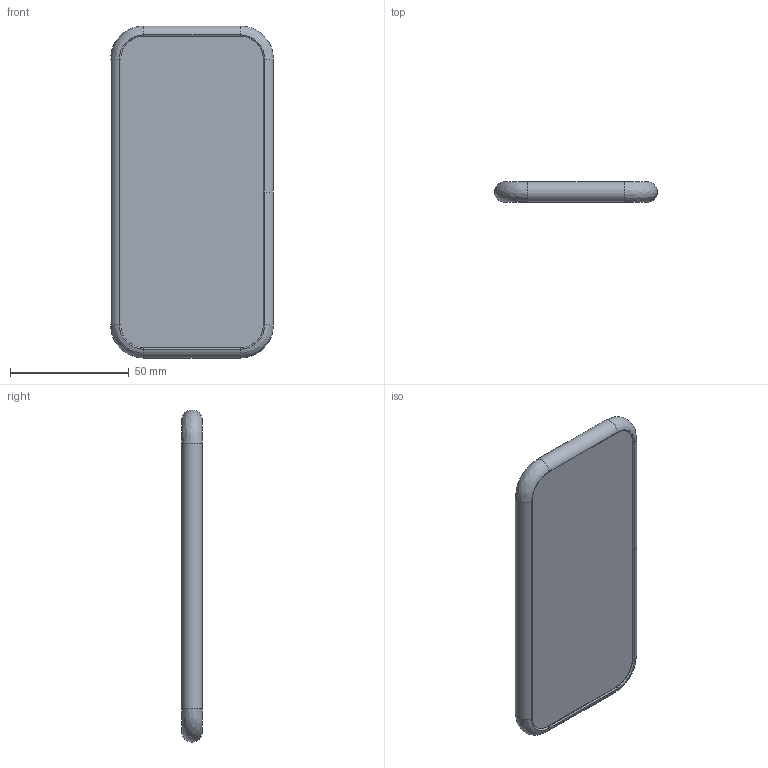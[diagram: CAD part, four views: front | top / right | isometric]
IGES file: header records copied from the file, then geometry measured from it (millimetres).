
Start section: SolidWorks IGES file using analytic representation for surfaces
Global section: file name: C:\PHD simulation\structural engineering tutorials\drop test\phone-1.IGS; native system: SolidWorks 2018; preprocessor: SolidWorks 2018; author: yousefik; date: 200704.212128; units: millimetre
Bounding box: 68.57 x 8.53 x 139.77 mm (x, y, z)
Surface area: 48771.2 mm2 (no closed solid volume)
Topology: 0 solids, 0 shells, 93 faces, 502 edges, 502 vertices
Faces by surface type: bspline 47, revolution 46
